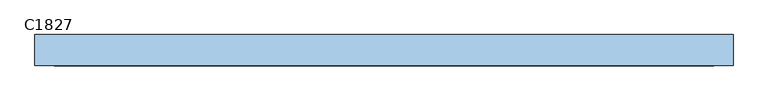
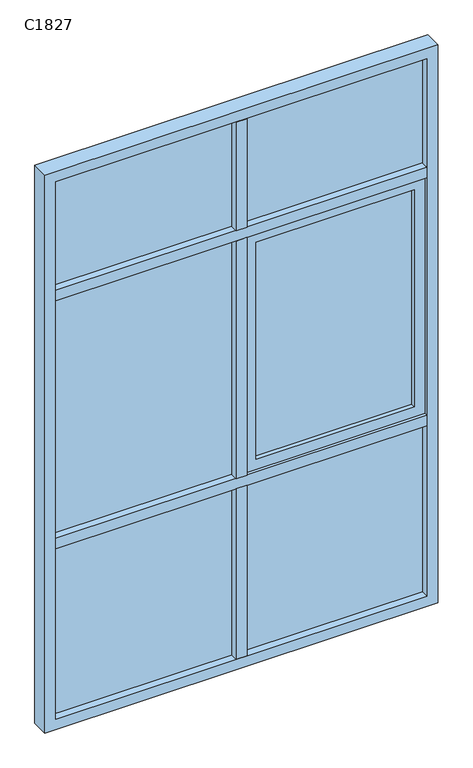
"""IFC4 building model written with IfcOpenShell, lengths in millimetres: window geometry, 组合窗 - 三层双列(平开+固定) : C1827."""

from ifc_helpers import new_model, si_unit, frame, origin, place, context, project, spatial, polyline, outline, extrude, source, transform, mapped, element, save


def c1827_e9777f8c(model_context):
    return source(origin(), model_context, "Body", "SweptSolid", [
        extrude(outline(polyline([(-25.0, 75.0), (-850.0, 75.0), (-850.0, 85.0), (-25.0, 85.0), (-25.0, 75.0)])), frame((0.0, 0.0, 2125.0), z_axis=(0.0, 0.0, 1.0), x_axis=(1.0, 0.0, 0.0)), (0.0, 0.0, 1.0), 525.0),
        extrude(outline(polyline([(-25.0, 75.0), (-850.0, 75.0), (-850.0, 85.0), (-25.0, 85.0), (-25.0, 75.0)])), frame((0.0, 0.0, 925.0), z_axis=(0.0, 0.0, 1.0), x_axis=(1.0, 0.0, 0.0)), (0.0, 0.0, 1.0), 1150.0),
        extrude(outline(polyline([(-25.0, 75.0), (-850.0, 75.0), (-850.0, 85.0), (-25.0, 85.0), (-25.0, 75.0)])), frame((0.0, 0.0, 50.0), z_axis=(0.0, 0.0, 1.0), x_axis=(1.0, 0.0, 0.0)), (0.0, 0.0, 1.0), 825.0),
        extrude(outline(polyline([(850.0, 75.0), (25.0, 75.0), (25.0, 85.0), (850.0, 85.0), (850.0, 75.0)])), frame((0.0, 0.0, 50.0), z_axis=(0.0, 0.0, 1.0), x_axis=(1.0, 0.0, 0.0)), (0.0, 0.0, 1.0), 825.0),
        extrude(outline(polyline([(800.0, 75.0), (75.0, 75.0), (75.0, 85.0), (800.0, 85.0), (800.0, 75.0)])), frame((0.0, 0.0, 975.0), z_axis=(0.0, 0.0, 1.0), x_axis=(1.0, 0.0, 0.0)), (0.0, 0.0, 1.0), 1050.0),
        extrude(outline(polyline([(2075.0, 850.0), (2075.0, 25.0), (925.0, 25.0), (925.0, 850.0), (2075.0, 850.0)]), holes=[polyline([(975.0, 800.0), (975.0, 75.0), (2025.0, 75.0), (2025.0, 800.0), (975.0, 800.0)])]), frame((0.0, 55.0, 0.0), z_axis=(0.0, 1.0, 0.0), x_axis=(0.0, 0.0, 1.0)), (0.0, 0.0, 1.0), 50.0),
        extrude(outline(polyline([(850.0, 75.0), (25.0, 75.0), (25.0, 85.0), (850.0, 85.0), (850.0, 75.0)])), frame((0.0, 0.0, 2125.0), z_axis=(0.0, 0.0, 1.0), x_axis=(1.0, 0.0, 0.0)), (0.0, 0.0, 1.0), 525.0),
        extrude(outline(polyline([(-25.0, 120.0), (25.0, 120.0), (25.0, 40.0), (-25.0, 40.0), (-25.0, 120.0)])), frame((0.0, 0.0, 2125.0), z_axis=(0.0, 0.0, 1.0), x_axis=(1.0, 0.0, 0.0)), (0.0, 0.0, 1.0), 525.0),
        extrude(outline(polyline([(-25.0, 120.0), (25.0, 120.0), (25.0, 40.0), (-25.0, 40.0), (-25.0, 120.0)])), frame((0.0, 0.0, 925.0), z_axis=(0.0, 0.0, 1.0), x_axis=(1.0, 0.0, 0.0)), (0.0, 0.0, 1.0), 1150.0),
        extrude(outline(polyline([(-25.0, 120.0), (25.0, 120.0), (25.0, 40.0), (-25.0, 40.0), (-25.0, 120.0)])), frame((0.0, 0.0, 50.0), z_axis=(0.0, 0.0, 1.0), x_axis=(1.0, 0.0, 0.0)), (0.0, 0.0, 1.0), 825.0),
        extrude(outline(polyline([(-850.0, 120.0), (850.0, 120.0), (850.0, 40.0), (-850.0, 40.0), (-850.0, 120.0)])), frame((0.0, 0.0, 2075.0), z_axis=(0.0, 0.0, 1.0), x_axis=(1.0, 0.0, 0.0)), (0.0, 0.0, 1.0), 50.0),
        extrude(outline(polyline([(-850.0, 120.0), (850.0, 120.0), (850.0, 40.0), (-850.0, 40.0), (-850.0, 120.0)])), frame((0.0, 0.0, 875.0), z_axis=(0.0, 0.0, 1.0), x_axis=(1.0, 0.0, 0.0)), (0.0, 0.0, 1.0), 50.0),
        extrude(outline(polyline([(2700.0, -900.0), (0.0, -900.0), (0.0, 900.0), (2700.0, 900.0), (2700.0, -900.0)]), holes=[polyline([(2650.0, 850.0), (50.0, 850.0), (50.0, -850.0), (2650.0, -850.0), (2650.0, 850.0)])]), frame((0.0, 40.0, 0.0), z_axis=(0.0, 1.0, 0.0), x_axis=(0.0, 0.0, 1.0)), (0.0, 0.0, 1.0), 80.0),
    ])


if __name__ == "__main__":
    model = new_model("IFC4")
    model_context = context("Model", 3, world=origin())
    ifc_project = project(units=[si_unit("LENGTHUNIT", "METRE", prefix="MILLI")], contexts=[model_context])
    site = spatial("IfcSite", under=ifc_project)
    building = spatial("IfcBuilding", under=site)
    placement = place(None, origin())
    c1827_shape = c1827_e9777f8c(model_context)
    element("IfcWindow", 1, ObjectType="组合窗 - 三层双列(平开+固定) : C1827", at=placement, inside=building, context=model_context, shape_type="MappedRepresentation", body=[
        mapped(c1827_shape, transform((0.0, 0.0, 0.0), x_axis=(1.0, 0.0, 0.0), y_axis=(0.0, 1.0, 0.0), z_axis=(0.0, 0.0, 1.0))),
    ])
    save(model, "model.ifc")
